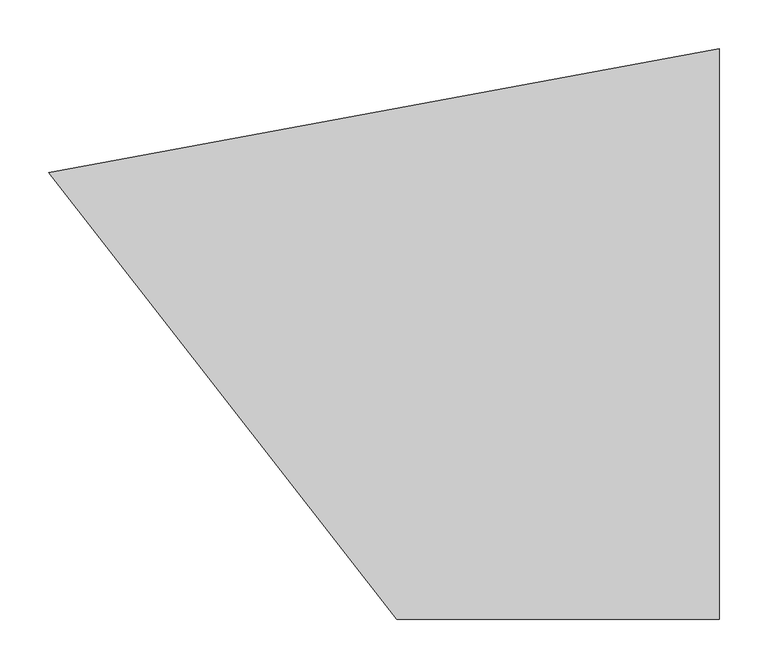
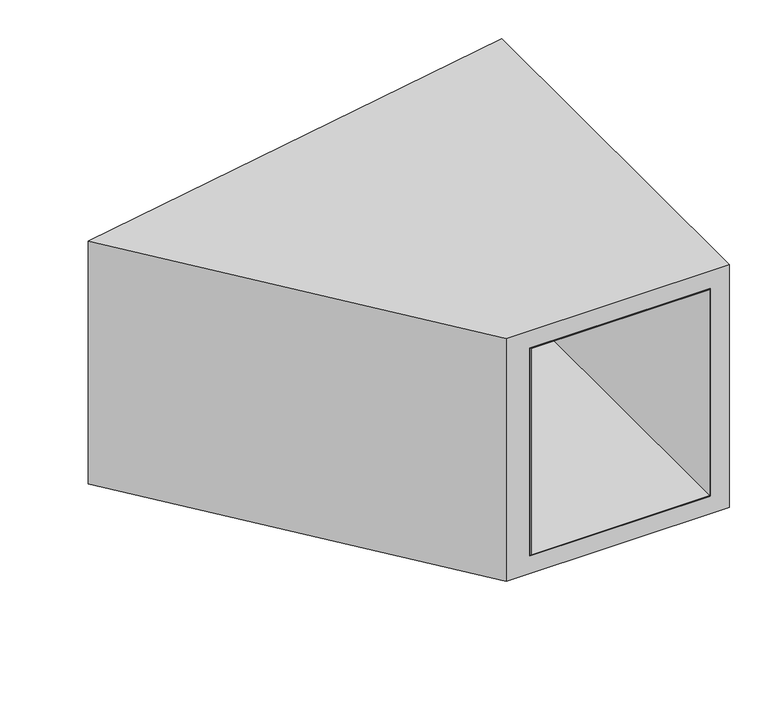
"""IFC4 building model written with IfcOpenShell, lengths in millimetres: furniture geometry, Coalesse_AM_Table_Occasional_Sebastopol_Small : 16H - With Gromment."""

from ifc_helpers import new_model, si_unit, point, frame, frame_2d, origin, origin_with_axes, place, context, project, spatial, polyline, circle_curve, ellipse_curve, trimmed, segment, composite_curve, outline, extrude, source, transform, mapped, element, save
from ifc_brep_helpers import plane_surface, cylinder_surface, revolved_surface, advanced_brep


def furniture_856ebc5b(model_context):
    return source(origin(), model_context, "Body", "SolidModel", [
        extrude(outline(polyline([(-28.8798, -5.3450123), (-28.8798, -584.2), (-293.6029229, -584.2), (-654.1401583, -121.0668767), (-28.8798, -5.3450123)]), holes=[composite_curve([segment(trimmed(circle_curve(frame_2d((-254.0, -331.2986121)), 69.5528681), [point((-184.4471319, -331.2986121))], [point((-323.5528681, -331.2986121))], True, "CARTESIAN"), True, "CONTINUOUS"), segment(trimmed(circle_curve(frame_2d((-254.0, -331.2986121)), 69.5528681), [point((-323.5528681, -331.2986121))], [point((-184.4471319, -331.2986121))], True, "CARTESIAN"), True, "CONTINUOUS")], self_intersect=False)]), frame((0.0, 0.0, 53.0098003), z_axis=(0.0, 0.0, 1.0), x_axis=(1.0, 0.0, 0.0)), (0.0, 0.0, 1.0), 1.2699997),
        advanced_brep(
        [(-298.2624445, -331.2986121, 41.2015362), (-209.7375555, -331.2986121, 41.2015362), (-209.108362, -331.2986121, 42.1809258), (-298.891638, -331.2986121, 42.1809258), (-298.0451032, -331.2986121, 34.9776975), (-209.9548968, -331.2986121, 34.9776975), (-300.5087748, -331.2986121, 34.9776975), (-207.4912252, -331.2986121, 34.9776975), (-316.5376646, -331.2986121, 34.9776975), (-191.4623354, -331.2986121, 34.9776975), (-316.5376646, -331.2986121, 36.7445615), (-191.4623354, -331.2986121, 36.7445615), (-313.634887, -331.2986121, 39.7504757), (-194.365113, -331.2986121, 39.7504757), (-303.5164029, -331.2986121, 40.103821), (-204.4835971, -331.2986121, 40.103821), (-303.2122443, -331.2986121, 41.5347748), (-204.7877557, -331.2986121, 41.5347748), (-322.580416, -331.2986121, 50.9812633), (-185.419584, -331.2986121, 50.9812633), (-323.0468314, -331.2986121, 51.727684), (-184.9531686, -331.2986121, 51.727684), (-323.0468314, -331.2986121, 53.0098), (-184.9531686, -331.2986121, 53.0098), (-325.9507609, -331.2986121, 53.0098), (-182.0492391, -331.2986121, 53.0098), (-325.9507609, -331.2986121, 54.0178131), (-182.0492391, -331.2986121, 54.0178131), (-324.4374153, -331.2986121, 54.9531343), (-183.5625847, -331.2986121, 54.9531343)],
        [
            (0, 1, circle_curve(frame((-254.0, -331.2986121, 41.2015362), z_axis=(0.0, 0.0, -1.0), x_axis=(1.0, 0.0, 0.0)), 44.2624445)),
            (1, 2, circle_curve(frame((-208.5988114, -331.2986121, 41.1617704), z_axis=(0.0, 1.0, 0.0), x_axis=(0.0, 0.0, 1.0)), 1.1394383)),
            (2, 3, circle_curve(frame((-254.0, -331.2986121, 42.1809258), z_axis=(0.0, 0.0, 1.0), x_axis=(1.0, 0.0, 0.0)), 44.891638)),
            (3, 0, circle_curve(frame((-299.4011886, -331.2986121, 41.1617704), z_axis=(0.0, 1.0, 0.0), x_axis=(0.0, 0.0, 1.0)), 1.1394383)),
            (1, 0, circle_curve(frame((-254.0, -331.2986121, 41.2015362), z_axis=(0.0, 0.0, -1.0), x_axis=(1.0, 0.0, 0.0)), 44.2624445)),
            (3, 2, circle_curve(frame((-254.0, -331.2986121, 42.1809258), z_axis=(0.0, 0.0, 1.0), x_axis=(1.0, 0.0, 0.0)), 44.891638)),
            (4, 5, circle_curve(frame((-254.0, -331.2986121, 34.9776975), z_axis=(0.0, 0.0, -1.0), x_axis=(1.0, 0.0, 0.0)), 44.0451032)),
            (5, 1),
            (0, 4),
            (5, 4, circle_curve(frame((-254.0, -331.2986121, 34.9776975), z_axis=(0.0, 0.0, -1.0), x_axis=(1.0, 0.0, 0.0)), 44.0451032)),
            (6, 7, circle_curve(frame((-254.0, -331.2986121, 34.9776975), z_axis=(0.0, 0.0, -1.0), x_axis=(1.0, 0.0, 0.0)), 46.5087748)),
            (7, 5, circle_curve(frame((-208.723061, -331.2986121, 34.9346809), z_axis=(0.0, 1.0, 0.0), x_axis=(0.0, 0.0, 1.0)), 1.2325866)),
            (4, 6, circle_curve(frame((-299.276939, -331.2986121, 34.9346809), z_axis=(0.0, 1.0, 0.0), x_axis=(0.0, 0.0, 1.0)), 1.2325866)),
            (7, 6, circle_curve(frame((-254.0, -331.2986121, 34.9776975), z_axis=(0.0, 0.0, -1.0), x_axis=(1.0, 0.0, 0.0)), 46.5087748)),
            (8, 9, circle_curve(frame((-254.0, -331.2986121, 34.9776975), z_axis=(0.0, 0.0, -1.0), x_axis=(1.0, 0.0, 0.0)), 62.5376646)),
            (9, 7),
            (6, 8),
            (9, 8, circle_curve(frame((-254.0, -331.2986121, 34.9776975), z_axis=(0.0, 0.0, -1.0), x_axis=(1.0, 0.0, 0.0)), 62.5376646)),
            (10, 11, circle_curve(frame((-254.0, -331.2986121, 36.7445615), z_axis=(0.0, 0.0, -1.0), x_axis=(1.0, 0.0, 0.0)), 62.5376646)),
            (11, 9),
            (8, 10),
            (11, 10, circle_curve(frame((-254.0, -331.2986121, 36.7445615), z_axis=(0.0, 0.0, -1.0), x_axis=(1.0, 0.0, 0.0)), 62.5376646)),
            (12, 13, circle_curve(frame((-254.0, -331.2986121, 39.7504757), z_axis=(0.0, 0.0, -1.0), x_axis=(1.0, 0.0, 0.0)), 59.634887)),
            (13, 11, circle_curve(frame((-194.4700819, -331.2986121, 36.7445615), z_axis=(0.0, 1.0, 0.0), x_axis=(0.0, 0.0, 1.0)), 3.0077465)),
            (10, 12, circle_curve(frame((-313.5299181, -331.2986121, 36.7445615), z_axis=(0.0, 1.0, 0.0), x_axis=(0.0, 0.0, 1.0)), 3.0077465)),
            (13, 12, circle_curve(frame((-254.0, -331.2986121, 39.7504757), z_axis=(0.0, 0.0, -1.0), x_axis=(1.0, 0.0, 0.0)), 59.634887)),
            (14, 15, circle_curve(frame((-254.0, -331.2986121, 40.103821), z_axis=(0.0, 0.0, -1.0), x_axis=(1.0, 0.0, 0.0)), 49.5164029)),
            (15, 13),
            (12, 14),
            (15, 14, circle_curve(frame((-254.0, -331.2986121, 40.103821), z_axis=(0.0, 0.0, -1.0), x_axis=(1.0, 0.0, 0.0)), 49.5164029)),
            (16, 17, circle_curve(frame((-254.0, -331.2986121, 41.5347748), z_axis=(0.0, 0.0, -1.0), x_axis=(1.0, 0.0, 0.0)), 49.2122443)),
            (17, 15, circle_curve(frame((-204.457288, -331.2986121, 40.8572155), z_axis=(0.0, -1.0, 0.0), x_axis=(0.0, 0.0, 1.0)), 0.7538537)),
            (14, 16, circle_curve(frame((-303.542712, -331.2986121, 40.8572155), z_axis=(0.0, -1.0, 0.0), x_axis=(0.0, 0.0, 1.0)), 0.7538537)),
            (17, 16, circle_curve(frame((-254.0, -331.2986121, 41.5347748), z_axis=(0.0, 0.0, -1.0), x_axis=(1.0, 0.0, 0.0)), 49.2122443)),
            (18, 19, circle_curve(frame((-254.0, -331.2986121, 50.9812633), z_axis=(0.0, 0.0, -1.0), x_axis=(1.0, 0.0, 0.0)), 68.580416)),
            (19, 17),
            (16, 18),
            (19, 18, circle_curve(frame((-254.0, -331.2986121, 50.9812633), z_axis=(0.0, 0.0, -1.0), x_axis=(1.0, 0.0, 0.0)), 68.580416)),
            (20, 21, circle_curve(frame((-254.0, -331.2986121, 51.727684), z_axis=(0.0, 0.0, -1.0), x_axis=(1.0, 0.0, 0.0)), 69.0468314)),
            (21, 19, circle_curve(frame((-185.7836377, -331.2986121, 51.727684), z_axis=(0.0, 1.0, 0.0), x_axis=(0.0, 0.0, 1.0)), 0.8304691)),
            (18, 20, circle_curve(frame((-322.2163623, -331.2986121, 51.727684), z_axis=(0.0, 1.0, 0.0), x_axis=(0.0, 0.0, 1.0)), 0.8304691)),
            (21, 20, circle_curve(frame((-254.0, -331.2986121, 51.727684), z_axis=(0.0, 0.0, -1.0), x_axis=(1.0, 0.0, 0.0)), 69.0468314)),
            (22, 23, circle_curve(frame((-254.0, -331.2986121, 53.0098), z_axis=(0.0, 0.0, -1.0), x_axis=(1.0, 0.0, 0.0)), 69.0468314)),
            (23, 21),
            (20, 22),
            (23, 22, circle_curve(frame((-254.0, -331.2986121, 53.0098), z_axis=(0.0, 0.0, -1.0), x_axis=(1.0, 0.0, 0.0)), 69.0468314)),
            (24, 25, circle_curve(frame((-254.0, -331.2986121, 53.0098), z_axis=(0.0, 0.0, -1.0), x_axis=(1.0, 0.0, 0.0)), 71.9507609)),
            (25, 23),
            (22, 24),
            (25, 24, circle_curve(frame((-254.0, -331.2986121, 53.0098), z_axis=(0.0, 0.0, -1.0), x_axis=(1.0, 0.0, 0.0)), 71.9507609)),
            (26, 27, circle_curve(frame((-254.0, -331.2986121, 54.0178131), z_axis=(0.0, 0.0, -1.0), x_axis=(1.0, 0.0, 0.0)), 71.9507609)),
            (27, 25),
            (24, 26),
            (27, 26, circle_curve(frame((-254.0, -331.2986121, 54.0178131), z_axis=(0.0, 0.0, -1.0), x_axis=(1.0, 0.0, 0.0)), 71.9507609)),
            (28, 29, circle_curve(frame((-254.0, -331.2986121, 54.9531343), z_axis=(0.0, 0.0, -1.0), x_axis=(1.0, 0.0, 0.0)), 70.4374153)),
            (29, 27, circle_curve(frame((-183.094949, -331.2986121, 54.0178131), z_axis=(0.0, 1.0, 0.0), x_axis=(0.0, 0.0, 1.0)), 1.0457098)),
            (26, 28, circle_curve(frame((-324.905051, -331.2986121, 54.0178131), z_axis=(0.0, 1.0, 0.0), x_axis=(0.0, 0.0, 1.0)), 1.0457098)),
            (29, 28, circle_curve(frame((-254.0, -331.2986121, 54.9531343), z_axis=(0.0, 0.0, -1.0), x_axis=(1.0, 0.0, 0.0)), 70.4374153)),
            (2, 29),
            (28, 3),
        ],
        [
            revolved_surface(trimmed(ellipse_curve(frame((-208.5988114, -331.2986121, 41.1617704), z_axis=(0.0, -1.0, 0.0), x_axis=(0.0, 0.0, 1.0)), 1.1394383, 1.1394383), [point((-209.108362, -331.2986121, 42.1809258))], [point((-209.7375555, -331.2986121, 41.2015362))], True, "CARTESIAN"), (-254.0, -331.2986121, 34.9776975), (0.0, 0.0, 1.0)),
            revolved_surface(polyline([(-209.7375555, -331.2986121, 41.2015362), (-209.9548968, -331.2986121, 34.9776975)]), (-254.0, -331.2986121, 34.9776975), (0.0, 0.0, 1.0)),
            revolved_surface(trimmed(ellipse_curve(frame((-208.723061, -331.2986121, 34.9346809), z_axis=(0.0, -1.0, 0.0), x_axis=(0.0, 0.0, 1.0)), 1.2325866, 1.2325866), [point((-209.9548968, -331.2986121, 34.9776975))], [point((-207.4912252, -331.2986121, 34.9776975))], True, "CARTESIAN"), (-254.0, -331.2986121, 34.9776975), (0.0, 0.0, 1.0)),
            plane_surface(frame((-254.0, -331.2986121, 34.9776975), z_axis=(0.0, 0.0, -1.0), x_axis=(1.0, 0.0, 0.0))),
            cylinder_surface(frame((-254.0, -331.2986121, 34.9776975), z_axis=(0.0, 0.0, 1.0), x_axis=(1.0, 0.0, 0.0)), 62.5376646),
            revolved_surface(trimmed(ellipse_curve(frame((-194.4700819, -331.2986121, 36.7445615), z_axis=(0.0, -1.0, 0.0), x_axis=(0.0, 0.0, 1.0)), 3.0077465, 3.0077465), [point((-191.4623354, -331.2986121, 36.7445615))], [point((-194.365113, -331.2986121, 39.7504757))], True, "CARTESIAN"), (-254.0, -331.2986121, 34.9776975), (0.0, 0.0, 1.0)),
            revolved_surface(polyline([(-194.365113, -331.2986121, 39.7504757), (-204.4835971, -331.2986121, 40.103821)]), (-254.0, -331.2986121, 34.9776975), (0.0, 0.0, 1.0)),
            revolved_surface(trimmed(ellipse_curve(frame((-204.457288, -331.2986121, 40.8572155), z_axis=(0.0, 1.0, 0.0), x_axis=(0.0, 0.0, 1.0)), 0.7538537, 0.7538537), [point((-204.4835971, -331.2986121, 40.103821))], [point((-204.7877557, -331.2986121, 41.5347748))], True, "CARTESIAN"), (-254.0, -331.2986121, 34.9776975), (0.0, 0.0, 1.0)),
            revolved_surface(polyline([(-204.7877557, -331.2986121, 41.5347748), (-185.419584, -331.2986121, 50.9812633)]), (-254.0, -331.2986121, 34.9776975), (0.0, 0.0, 1.0)),
            revolved_surface(trimmed(ellipse_curve(frame((-185.7836377, -331.2986121, 51.727684), z_axis=(0.0, -1.0, 0.0), x_axis=(0.0, 0.0, 1.0)), 0.8304691, 0.8304691), [point((-185.419584, -331.2986121, 50.9812633))], [point((-184.9531686, -331.2986121, 51.727684))], True, "CARTESIAN"), (-254.0, -331.2986121, 34.9776975), (0.0, 0.0, 1.0)),
            cylinder_surface(frame((-254.0, -331.2986121, 34.9776975), z_axis=(0.0, 0.0, 1.0), x_axis=(1.0, 0.0, 0.0)), 69.0468314),
            plane_surface(frame((-254.0, -331.2986121, 53.0098), z_axis=(0.0, 0.0, -1.0), x_axis=(1.0, 0.0, 0.0))),
            cylinder_surface(frame((-254.0, -331.2986121, 34.9776975), z_axis=(0.0, 0.0, 1.0), x_axis=(1.0, 0.0, 0.0)), 71.9507609),
            revolved_surface(trimmed(ellipse_curve(frame((-183.094949, -331.2986121, 54.0178131), z_axis=(0.0, -1.0, 0.0), x_axis=(0.0, 0.0, 1.0)), 1.0457098, 1.0457098), [point((-182.0492391, -331.2986121, 54.0178131))], [point((-183.5625847, -331.2986121, 54.9531343))], True, "CARTESIAN"), (-254.0, -331.2986121, 34.9776975), (0.0, 0.0, 1.0)),
            revolved_surface(polyline([(-183.5625847, -331.2986121, 54.9531343), (-209.108362, -331.2986121, 42.1809258)]), (-254.0, -331.2986121, 34.9776975), (0.0, 0.0, 1.0)),
        ],
        [
            (0, [[1, 2, 3, 4]]),
            (0, [[5, -4, 6, -2]]),
            (1, [[7, 8, -1, 9]]),
            (1, [[10, -9, -5, -8]]),
            (2, [[11, 12, -7, 13]]),
            (2, [[14, -13, -10, -12]]),
            (3, [[15, 16, -11, 17]]),
            (3, [[18, -17, -14, -16]]),
            (4, [[19, 20, -15, 21]]),
            (4, [[22, -21, -18, -20]]),
            (5, [[23, 24, -19, 25]]),
            (5, [[26, -25, -22, -24]]),
            (6, [[27, 28, -23, 29]]),
            (6, [[30, -29, -26, -28]]),
            (7, [[31, 32, -27, 33]]),
            (7, [[34, -33, -30, -32]]),
            (8, [[35, 36, -31, 37]]),
            (8, [[38, -37, -34, -36]]),
            (9, [[39, 40, -35, 41]]),
            (9, [[42, -41, -38, -40]]),
            (10, [[43, 44, -39, 45]]),
            (10, [[46, -45, -42, -44]]),
            (11, [[47, 48, -43, 49]]),
            (11, [[50, -49, -46, -48]]),
            (12, [[51, 52, -47, 53]]),
            (12, [[54, -53, -50, -52]]),
            (13, [[55, 56, -51, 57]]),
            (13, [[58, -57, -54, -56]]),
            (14, [[-3, 59, -55, 60]]),
            (14, [[-6, -60, -58, -59]]),
        ],
    ),
        extrude(outline(polyline([(-28.8798, -5.3450121), (-28.8798, -584.2), (-293.6029238, -584.2), (-654.1401592, -121.0668767), (-28.8798, -5.3450121)])), frame((0.0, 0.0, 377.7742), z_axis=(0.0, 0.0, 1.0), x_axis=(1.0, 0.0, 0.0)), (0.0, 0.0, 1.0), 1.0160148),
        extrude(outline(polyline([(-28.8798, -5.3450124), (-27.6097996, -5.1099634), (-27.6097996, -584.2), (-28.8798, -584.2), (-28.8798, -5.3450124)])), frame((0.0, 0.0, 53.0098003), z_axis=(0.0, 0.0, 1.0), x_axis=(1.0, 0.0, 0.0)), (0.0, 0.0, 1.0), 325.7804145),
        extrude(outline(polyline([(-654.1401467, -121.0668915), (-293.6008661, -584.1999904), (-295.210327, -584.1999904), (-655.5469207, -121.3272543), (-654.1401467, -121.0668915)])), frame((0.0, 0.0, 53.0098003), z_axis=(0.0, 0.0, 1.0), x_axis=(1.0, 0.0, 0.0)), (0.0, 0.0, 1.0), 325.7804145),
        extrude(outline(composite_curve([segment(trimmed(circle_curve(frame_2d((-303.6026265, -530.8298119)), 17.272), [point((-320.8746265, -530.8298119))], [point((-286.3306265, -530.8298119))], False, "CARTESIAN"), True, "CONTINUOUS"), segment(trimmed(circle_curve(frame_2d((-303.6026265, -530.8298119)), 17.272), [point((-286.3306265, -530.8298119))], [point((-320.8746265, -530.8298119))], False, "CARTESIAN"), True, "CONTINUOUS")], self_intersect=False)), origin_with_axes(), (0.0, 0.0, 1.0), 13.97),
        extrude(outline(composite_curve([segment(trimmed(circle_curve(frame_2d((-54.1946691, -530.8298119)), 17.272), [point((-71.4666691, -530.8298119))], [point((-36.9226691, -530.8298119))], False, "CARTESIAN"), True, "CONTINUOUS"), segment(trimmed(circle_curve(frame_2d((-54.1946691, -530.8298119)), 17.272), [point((-36.9226691, -530.8298119))], [point((-71.4666691, -530.8298119))], False, "CARTESIAN"), True, "CONTINUOUS")], self_intersect=False)), origin_with_axes(), (0.0, 0.0, 1.0), 13.97),
        extrude(outline(composite_curve([segment(trimmed(circle_curve(frame_2d((-54.1946691, -64.3766294)), 17.272), [point((-71.4666691, -64.3766294))], [point((-36.9226691, -64.3766294))], False, "CARTESIAN"), True, "CONTINUOUS"), segment(trimmed(circle_curve(frame_2d((-54.1946691, -64.3766294)), 17.272), [point((-36.9226691, -64.3766294))], [point((-71.4666691, -64.3766294))], False, "CARTESIAN"), True, "CONTINUOUS")], self_intersect=False)), origin_with_axes(), (0.0, 0.0, 1.0), 13.97),
        extrude(outline(composite_curve([segment(trimmed(circle_curve(frame_2d((-589.7671168, -163.6088416)), 17.272), [point((-607.0391168, -163.6088416))], [point((-572.4951168, -163.6088416))], False, "CARTESIAN"), True, "CONTINUOUS"), segment(trimmed(circle_curve(frame_2d((-589.7671168, -163.6088416)), 17.272), [point((-572.4951168, -163.6088416))], [point((-607.0391168, -163.6088416))], False, "CARTESIAN"), True, "CONTINUOUS")], self_intersect=False)), origin_with_axes(), (0.0, 0.0, 1.0), 13.97),
        advanced_brep(
        [(-686.1302102, -126.9875278, 406.4), (-330.2000121, -584.1999879, 406.4), (0.0, -584.1999879, 406.4), (0.0, 0.0, 406.4), (-686.1302102, -126.9875278, 25.4000008), (0.0, 0.0, 25.4000008), (0.0, -584.1999879, 25.4000008), (-330.2000121, -584.1999879, 25.4000008), (-184.4471319, -331.2986121, 25.4000008), (-323.5528681, -331.2986121, 25.4000008), (-295.2103195, -584.1999879, 378.7902148), (-27.6097996, -584.1999879, 378.7902148), (-27.6097996, -584.1999879, 53.0098003), (-295.2103195, -584.1999879, 53.0098003), (-27.6097996, -5.1099633, 378.7902148), (-655.5469323, -121.3272394, 378.7902148), (-655.5469323, -121.3272394, 53.0098003), (-27.6097996, -5.1099633, 53.0098003), (-323.5528681, -331.2986121, 53.0098003), (-184.4471319, -331.2986121, 53.0098003)],
        [
            (0, 1),
            (1, 2),
            (2, 3),
            (3, 0),
            (4, 5),
            (5, 6),
            (6, 7),
            (7, 4),
            (8, 9, circle_curve(frame((-254.0, -331.2986121, 25.4000008), z_axis=(0.0, 0.0, 1.0), x_axis=(1.0, 0.0, 0.0)), 69.5528681)),
            (9, 8, circle_curve(frame((-254.0, -331.2986121, 25.4000008), z_axis=(0.0, 0.0, 1.0), x_axis=(1.0, 0.0, 0.0)), 69.5528681)),
            (0, 4),
            (7, 1),
            (6, 2),
            (10, 11),
            (11, 12),
            (12, 13),
            (13, 10),
            (5, 3),
            (14, 15),
            (15, 16),
            (16, 17),
            (17, 14),
            (10, 15),
            (14, 11),
            (12, 17),
            (16, 13),
            (18, 19, circle_curve(frame((-254.0, -331.2986121, 53.0098003), z_axis=(0.0, 0.0, -1.0), x_axis=(1.0, 0.0, 0.0)), 69.5528681)),
            (19, 18, circle_curve(frame((-254.0, -331.2986121, 53.0098003), z_axis=(0.0, 0.0, -1.0), x_axis=(1.0, 0.0, 0.0)), 69.5528681)),
            (18, 9),
            (8, 19),
        ],
        [
            plane_surface(frame((-686.1302124, -126.987525, 406.4), z_axis=(0.0, 0.0, 1.0), x_axis=(0.6142852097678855, -0.7890840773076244, 0.0))),
            plane_surface(frame((-686.1302124, -126.987525, 25.4000008), z_axis=(0.0, 0.0, -1.0), x_axis=(-0.6142852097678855, 0.7890840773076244, 0.0))),
            plane_surface(frame((-686.1302102, -126.9875278, 406.4), z_axis=(-0.7890840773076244, -0.6142852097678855, 0.0), x_axis=(0.0, 0.0, -1.0))),
            plane_surface(frame((-330.2000121, -584.1999879, 406.4), z_axis=(0.0, -1.0, 0.0), x_axis=(0.0, 0.0, -1.0))),
            plane_surface(frame((0.0, -584.1999879, 406.4), z_axis=(1.0, 0.0, 0.0), x_axis=(0.0, 0.0, -1.0))),
            plane_surface(frame((0.0, 0.0, 406.4), z_axis=(-0.18198724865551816, 0.9833008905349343, 0.0), x_axis=(0.0, 0.0, -1.0))),
            plane_surface(frame((-28.8798, -584.2, 378.7902148), z_axis=(0.0, 0.0, -1.0), x_axis=(1.0, 0.0, 0.0))),
            plane_surface(frame((-28.8798, -584.2, 53.0098003), z_axis=(0.0, 0.0, 1.0), x_axis=(-1.0, 0.0, 0.0))),
            plane_surface(frame((-27.6097996, -584.2, 378.7902148), z_axis=(-1.0, 0.0, 0.0), x_axis=(0.0, 0.0, -1.0))),
            plane_surface(frame((-655.9515696, -120.80746, 378.7902148), z_axis=(0.7890840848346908, 0.614285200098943, 0.0), x_axis=(0.0, 0.0, -1.0))),
            revolved_surface(polyline([(-184.4471319, -331.2986121, 53.009800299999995), (-184.4471319, -331.2986121, 25.4000008)]), (-254.0, -331.2986121, -63.5), (0.0, 0.0, 1.0)),
        ],
        [
            (0, [[1, 2, 3, 4]]),
            (1, [[5, 6, 7, 8], [9, 10]]),
            (2, [[-1, 11, -8, 12]]),
            (3, [[-2, -12, -7, 13], [14, 15, 16, 17]]),
            (4, [[-3, -13, -6, 18]]),
            (5, [[-4, -18, -5, -11], [19, 20, 21, 22]]),
            (6, [[23, -19, 24, -14]]),
            (7, [[25, -21, 26, -16], [27, 28]]),
            (8, [[-24, -22, -25, -15]]),
            (9, [[-23, -17, -26, -20]]),
            (10, [[29, -9, 30, -27]]),
            (10, [[-29, -28, -30, -10]]),
        ],
    ),
        extrude(outline(composite_curve([segment(trimmed(circle_curve(frame_2d((-303.2565091, -530.7936073)), 4.826), [point((-308.0825091, -530.7936073))], [point((-298.4305091, -530.7936073))], False, "CARTESIAN"), True, "CONTINUOUS"), segment(trimmed(circle_curve(frame_2d((-303.2565091, -530.7936073)), 4.826), [point((-298.4305091, -530.7936073))], [point((-308.0825091, -530.7936073))], False, "CARTESIAN"), True, "CONTINUOUS")], self_intersect=False)), frame((0.0, 0.0, 13.97), z_axis=(0.0, 0.0, 1.0), x_axis=(1.0, 0.0, 0.0)), (0.0, 0.0, 1.0), 11.4300008),
        extrude(outline(composite_curve([segment(trimmed(circle_curve(frame_2d((-53.8485517, -530.7936073)), 4.826), [point((-58.6745517, -530.7936073))], [point((-49.0225517, -530.7936073))], False, "CARTESIAN"), True, "CONTINUOUS"), segment(trimmed(circle_curve(frame_2d((-53.8485517, -530.7936073)), 4.826), [point((-49.0225517, -530.7936073))], [point((-58.6745517, -530.7936073))], False, "CARTESIAN"), True, "CONTINUOUS")], self_intersect=False)), frame((0.0, 0.0, 13.97), z_axis=(0.0, 0.0, 1.0), x_axis=(1.0, 0.0, 0.0)), (0.0, 0.0, 1.0), 11.4300008),
        extrude(outline(composite_curve([segment(trimmed(circle_curve(frame_2d((-53.8485517, -64.3404248)), 4.826), [point((-58.6745517, -64.3404248))], [point((-49.0225517, -64.3404248))], False, "CARTESIAN"), True, "CONTINUOUS"), segment(trimmed(circle_curve(frame_2d((-53.8485517, -64.3404248)), 4.826), [point((-49.0225517, -64.3404248))], [point((-58.6745517, -64.3404248))], False, "CARTESIAN"), True, "CONTINUOUS")], self_intersect=False)), frame((0.0, 0.0, 13.97), z_axis=(0.0, 0.0, 1.0), x_axis=(1.0, 0.0, 0.0)), (0.0, 0.0, 1.0), 11.4300008),
        extrude(outline(composite_curve([segment(trimmed(circle_curve(frame_2d((-589.4209994, -163.5726371)), 4.826), [point((-594.2469994, -163.5726371))], [point((-584.5949994, -163.5726371))], False, "CARTESIAN"), True, "CONTINUOUS"), segment(trimmed(circle_curve(frame_2d((-589.4209994, -163.5726371)), 4.826), [point((-584.5949994, -163.5726371))], [point((-594.2469994, -163.5726371))], False, "CARTESIAN"), True, "CONTINUOUS")], self_intersect=False)), frame((0.0, 0.0, 13.97), z_axis=(0.0, 0.0, 1.0), x_axis=(1.0, 0.0, 0.0)), (0.0, 0.0, 1.0), 11.4300008),
    ])


if __name__ == "__main__":
    model = new_model("IFC4")
    model_context = context("Model", 3, world=origin())
    ifc_project = project(units=[si_unit("LENGTHUNIT", "METRE", prefix="MILLI")], contexts=[model_context])
    site = spatial("IfcSite", under=ifc_project)
    building = spatial("IfcBuilding", under=site)
    placement = place(None, origin())
    furniture_shape = furniture_856ebc5b(model_context)
    element("IfcFurniture", 1, ObjectType="Coalesse_AM_Table_Occasional_Sebastopol_Small : 16H - With Gromment", at=placement, inside=building, context=model_context, shape_type="MappedRepresentation", body=[
        mapped(furniture_shape, transform((0.0, 0.0, 0.0), x_axis=(1.0, 0.0, 0.0), y_axis=(0.0, 1.0, 0.0), z_axis=(0.0, 0.0, 1.0))),
    ])
    save(model, "model.ifc")
